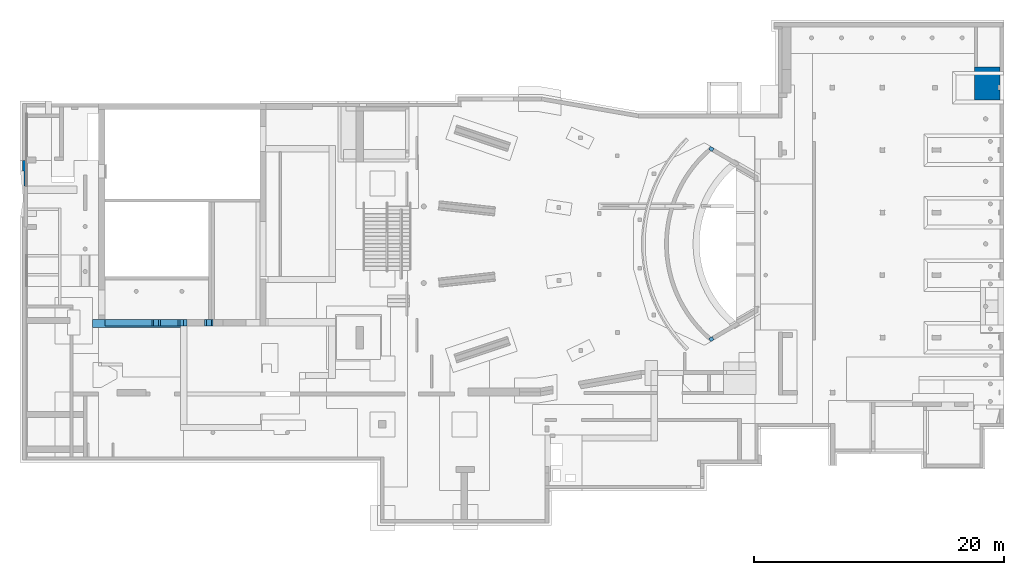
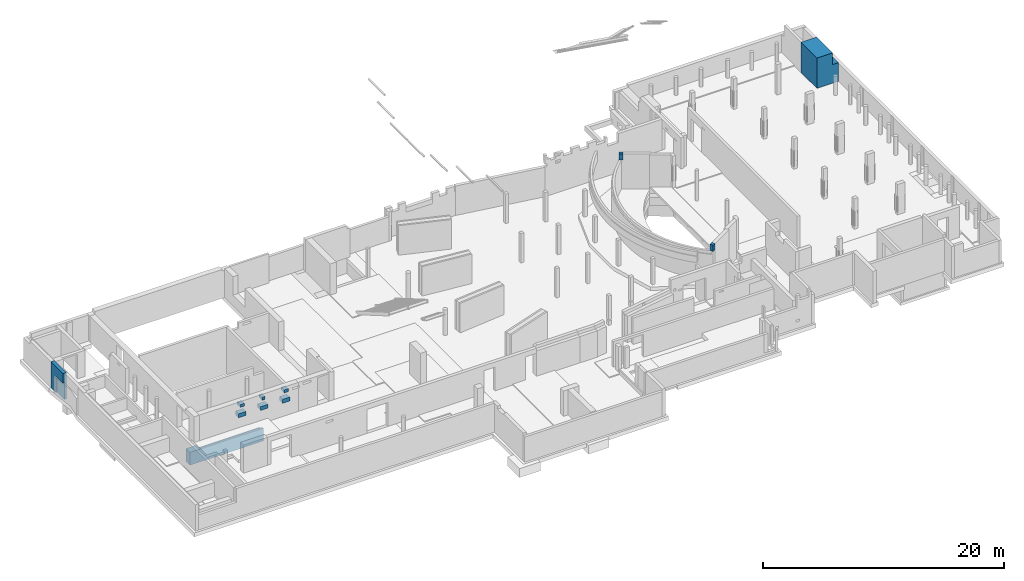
# One storey, part 36 of 42: 11 walls.
"""IFC2X3 building model written with IfcOpenShell, lengths in millimetres."""

from ifc_helpers import new_model, entity, si_unit, converted_unit, derived_unit, direction, frame, frame_2d, origin, place, context, subcontext, project, spatial, rectangle, extrude, faceted_brep, material, layer, layer_set, layer_usage, type_object, element, save


model = new_model("IFC2X3")

# Units and contexts
model_context = context("Model", 3, precision=0.01, world=origin(), true_north=direction((6.12303176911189e-17, 1.0)))
body_context = subcontext(model_context, "Body", "Model", "MODEL_VIEW")
ifc_project = project(units=[si_unit("LENGTHUNIT", "METRE", prefix="MILLI"), si_unit("AREAUNIT", "SQUARE_METRE", prefix="MILLI"), si_unit("VOLUMEUNIT", "CUBIC_METRE"), converted_unit("PLANEANGLEUNIT", "DEGREE", entity("IfcRatioMeasure", 0.0174532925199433), si_unit("PLANEANGLEUNIT", "RADIAN"), dimensions=[0, 0, 0, 0, 0, 0, 0]), si_unit("MASSUNIT", "GRAM", prefix="KILO"), derived_unit("MASSDENSITYUNIT", [(si_unit("MASSUNIT", "GRAM", prefix="KILO"), 1), (si_unit("LENGTHUNIT", "METRE"), -3)]), derived_unit("MOMENTOFINERTIAUNIT", [(si_unit("LENGTHUNIT", "METRE"), 4)]), si_unit("TIMEUNIT", "SECOND"), si_unit("FREQUENCYUNIT", "HERTZ"), si_unit("THERMODYNAMICTEMPERATUREUNIT", "DEGREE_CELSIUS"), derived_unit("THERMALTRANSMITTANCEUNIT", [(si_unit("MASSUNIT", "GRAM", prefix="KILO"), 1), (si_unit("THERMODYNAMICTEMPERATUREUNIT", "KELVIN"), -1), (si_unit("TIMEUNIT", "SECOND"), -3)]), derived_unit("VOLUMETRICFLOWRATEUNIT", [(si_unit("LENGTHUNIT", "METRE"), 3), (si_unit("TIMEUNIT", "SECOND"), -1)]), si_unit("ELECTRICCURRENTUNIT", "AMPERE"), si_unit("ELECTRICVOLTAGEUNIT", "VOLT"), si_unit("POWERUNIT", "WATT"), si_unit("FORCEUNIT", "NEWTON", prefix="KILO"), si_unit("ILLUMINANCEUNIT", "LUX"), si_unit("LUMINOUSFLUXUNIT", "LUMEN"), si_unit("LUMINOUSINTENSITYUNIT", "CANDELA"), derived_unit("USERDEFINED", [(si_unit("MASSUNIT", "GRAM", prefix="KILO"), -1), (si_unit("LENGTHUNIT", "METRE"), -2), (si_unit("TIMEUNIT", "SECOND"), 3), (si_unit("LUMINOUSFLUXUNIT", "LUMEN"), 1)]), derived_unit("LINEARVELOCITYUNIT", [(si_unit("LENGTHUNIT", "METRE"), 1), (si_unit("TIMEUNIT", "SECOND"), -1)]), si_unit("PRESSUREUNIT", "PASCAL"), derived_unit("USERDEFINED", [(si_unit("LENGTHUNIT", "METRE"), -2), (si_unit("MASSUNIT", "GRAM", prefix="KILO"), 1), (si_unit("TIMEUNIT", "SECOND"), -2)]), derived_unit("LINEARFORCEUNIT", [(si_unit("MASSUNIT", "GRAM", prefix="KILO"), 1), (si_unit("LENGTHUNIT", "METRE"), 1), (si_unit("TIMEUNIT", "SECOND"), -2), (si_unit("LENGTHUNIT", "METRE"), -1)]), derived_unit("PLANARFORCEUNIT", [(si_unit("MASSUNIT", "GRAM", prefix="KILO"), 1), (si_unit("LENGTHUNIT", "METRE"), 1), (si_unit("TIMEUNIT", "SECOND"), -2), (si_unit("LENGTHUNIT", "METRE"), -2)])], contexts=[model_context])

# Site, building, storey
site_placement = place(None, origin())
site = spatial("IfcSite", under=ifc_project, at=site_placement, Name="Theater aan de Parade", CompositionType="ELEMENT")
building_placement = place(site_placement, origin())
building = spatial("IfcBuilding", under=site, at=building_placement, Name="Theater aan de Parade", CompositionType="ELEMENT")
storey_placement = place(building_placement, frame((0.0, 0.0, -3300.0)))
storey = spatial("IfcBuildingStorey", under=building, at=storey_placement, Name="-1 kelder", CompositionType="ELEMENT", Elevation=-3300.0)

# Walls
ifc_material_1 = material(Name="00_PBT_MAT_beton t.p.g.")
ifc_layer_1 = layer(ifc_material_1, 300.0)
ifc_layer_set_1 = layer_set([ifc_layer_1], Name="Basic Wall:16_PBT_WA_beton t.p.g._d=300_bestaand")
wall_type_1 = type_object("IfcWallType", Name="Basic Wall:16_PBT_WA_beton t.p.g._d=300_bestaand", PredefinedType="STANDARD", material=ifc_layer_set_1)
wall_1_placement = place(storey_placement, frame((10340.0, 37090.0, -40.0), z_axis=(0.0, 0.0, 1.0), x_axis=(0.0, 1.0, 0.0)))
element("IfcWall", 1, at=wall_1_placement, inside=storey, type_object=wall_type_1, Name="Basic Wall:16_PBT_WA_beton t.p.g._d=300_bestaand", ObjectType="Basic Wall:16_PBT_WA_beton t.p.g._d=300_bestaand", context=body_context, shape_type="Brep", body=[
    faceted_brep([(0.0, -150.0, 0.0), (1565.18277652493, -150.0, 0.0), (2025.18277652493, -150.0, 0.0), (2030.0, -150.0, 0.0), (2030.0, -150.0, 2650.0), (0.0, -150.0, 2650.0), (2030.0, 150.0, 2650.0), (2030.0, 150.0, 0.0), (1185.0, 150.0, 0.0), (1185.0, 150.0, 1690.0), (0.0, 150.0, 1690.0), (0.0, 150.0, 2650.0), (1185.0, 40.0, 1690.0), (1185.0, 40.0, 0.0), (0.0, 40.0, 0.0), (0.0, 40.0, 1690.0), (0.0, 40.0, 2650.0)], [[[0, 1, 2, 3, 4, 5]], [[6, 7, 8, 9, 10, 11]], [[12, 13, 14, 15]], [[13, 12, 9, 8]], [[9, 12, 15, 10]], [[3, 2, 1, 0, 14, 13, 8, 7]], [[4, 3, 7, 6]], [[5, 4, 6, 11, 16]], [[0, 5, 16, 11, 10, 15, 14]]]),
])
ifc_layer_2 = layer(ifc_material_1, 650.0)
ifc_layer_set_2 = layer_set([ifc_layer_2], Name="Basic Wall:16_PBT_WA_beton t.p.g._d=650_bestaand")
wall_type_2 = type_object("IfcWallType", Name="Basic Wall:16_PBT_WA_beton t.p.g._d=650_bestaand", PredefinedType="STANDARD", material=ifc_layer_set_2)
wall_2_placement = place(storey_placement, frame((15775.0, 26085.0, -1747.193114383)))
element("IfcWall", 2, at=wall_2_placement, inside=storey, type_object=wall_type_2, Name="Basic Wall:16_PBT_WA_beton t.p.g._d=650_bestaand", ObjectType="Basic Wall:16_PBT_WA_beton t.p.g._d=650_bestaand", context=body_context, shape_type="Brep", body=[
    faceted_brep([(0.0, -325.0, 0.0), (7050.0, -325.0, 0.0), (7050.0, -325.0, 1307.19311438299), (0.0, -325.0, 1307.19311438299), (7050.0, 325.0, 0.0), (0.0, 325.0, 0.0), (0.0, 325.0, 1007.193114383), (0.0, 325.0, 1307.19311438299), (500.0, 325.0, 1307.19311438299), (1000.0, 325.0, 1307.19311438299), (1000.0, 325.0, 1007.19311438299), (7050.0, 325.0, 1007.19311438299), (7050.0, -175.0, 1307.19311438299), (1000.0, -175.0, 1307.19311438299), (7050.0, 315.0, 1007.19311438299), (7050.0, -175.0, 1007.19311438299), (1000.0, -175.0, 1007.19311438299)], [[[0, 1, 2, 3]], [[4, 5, 6, 7, 8, 9, 10, 11]], [[1, 0, 5, 4]], [[3, 2, 12, 13, 9, 8, 7]], [[0, 3, 7, 6, 5]], [[2, 1, 4, 11, 14, 15, 12]], [[16, 13, 12, 15]], [[10, 16, 15, 14, 11]], [[16, 10, 9, 13]]]),
])
ifc_material_2 = material(Name="00_PBT_MAT_beton t.p.g._C30/37")
ifc_layer_3 = layer(ifc_material_2, 300.0)
ifc_layer_set_3 = layer_set([ifc_layer_3], Name="Basic Wall:28_PBT_WA_beton t.p.g._d=300_C30/37")
ifc_layer_usage_1 = layer_usage(ifc_layer_set_3, "AXIS2", "NEGATIVE", 150.0)
wall_type_3 = type_object("IfcWallType", Name="Basic Wall:28_PBT_WA_beton t.p.g._d=300_C30/37", PredefinedType="STANDARD", material=ifc_layer_set_3)
wall_3_placement = place(storey_placement, frame((65420.1615379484, 39969.2360734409, 3240.0), z_axis=(0.0, 0.0, 1.0), x_axis=(-0.863190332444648, 0.50487864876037, 0.0)))
element("IfcWallStandardCase", 3, at=wall_3_placement, inside=storey, type_object=wall_type_3, material=ifc_layer_usage_1, Name="Basic Wall:28_PBT_WA_beton t.p.g._d=300_C30/37", ObjectType="Basic Wall:28_PBT_WA_beton t.p.g._d=300_C30/37", context=body_context, shape_type="SweptSolid", body=[
    extrude(rectangle(XDim=334.999999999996, YDim=299.999999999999, at=frame_2d((167.500000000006, 1.76214598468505e-12), x_axis=(-1.0, 0.0))), origin(), (0.0, 0.0, 1.0), 640.000000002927),
])
ifc_layer_usage_2 = layer_usage(ifc_layer_set_3, "AXIS2", "POSITIVE", -150.0)
wall_4_placement = place(storey_placement, frame((65420.1615379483, 24930.7639265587, 3240.0), z_axis=(0.0, 0.0, 1.0), x_axis=(-0.863190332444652, -0.504878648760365, 0.0)))
element("IfcWallStandardCase", 4, at=wall_4_placement, inside=storey, type_object=wall_type_3, material=ifc_layer_usage_2, Name="Basic Wall:28_PBT_WA_beton t.p.g._d=300_C30/37", ObjectType="Basic Wall:28_PBT_WA_beton t.p.g._d=300_C30/37", context=body_context, shape_type="SweptSolid", body=[
    extrude(rectangle(XDim=319.653445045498, YDim=300.000000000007, at=frame_2d((159.826722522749, 8.5265128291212e-14), x_axis=(-1.0, 0.0))), origin(), (0.0, 0.0, 1.0), 640.000000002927),
])
ifc_layer_4 = layer(ifc_material_2, 500.0)
ifc_layer_set_4 = layer_set([ifc_layer_4], Name="Basic Wall:28_PBT_WA_beton t.p.g._d=500_C30/37")
ifc_layer_usage_3 = layer_usage(ifc_layer_set_4, "AXIS2", "POSITIVE", -250.0)
wall_type_4 = type_object("IfcWallType", Name="Basic Wall:28_PBT_WA_beton t.p.g._d=500_C30/37", PredefinedType="STANDARD", material=ifc_layer_set_4)
wall_5_placement = place(storey_placement, frame((22785.0, 26160.0, 2290.0)))
element("IfcWallStandardCase", 5, at=wall_5_placement, inside=storey, type_object=wall_type_4, material=ifc_layer_usage_3, Name="Basic Wall:28_PBT_WA_beton t.p.g._d=500_C30/37", ObjectType="Basic Wall:28_PBT_WA_beton t.p.g._d=500_C30/37", context=body_context, shape_type="SweptSolid", body=[
    extrude(rectangle(XDim=289.999999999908, YDim=499.999999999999, at=frame_2d((144.999999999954, 0.0), x_axis=(-1.0, 0.0))), origin(), (0.0, 0.0, 1.0), 300.000000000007),
])
ifc_layer_usage_4 = layer_usage(ifc_layer_set_4, "AXIS2", "POSITIVE", -250.0)
wall_6_placement = place(storey_placement, frame((20685.0, 26160.0, 2290.0)))
element("IfcWallStandardCase", 6, at=wall_6_placement, inside=storey, type_object=wall_type_4, material=ifc_layer_usage_4, Name="Basic Wall:28_PBT_WA_beton t.p.g._d=500_C30/37", ObjectType="Basic Wall:28_PBT_WA_beton t.p.g._d=500_C30/37", context=body_context, shape_type="SweptSolid", body=[
    extrude(rectangle(XDim=400.0, YDim=499.999999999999, at=frame_2d((200.0, 0.0), x_axis=(-1.0, 0.0))), origin(), (0.0, 0.0, 1.0), 300.000000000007),
])
ifc_layer_usage_5 = layer_usage(ifc_layer_set_4, "AXIS2", "POSITIVE", -250.0)
wall_7_placement = place(storey_placement, frame((24885.0, 26160.0, 2290.0)))
element("IfcWallStandardCase", 7, at=wall_7_placement, inside=storey, type_object=wall_type_4, material=ifc_layer_usage_5, Name="Basic Wall:28_PBT_WA_beton t.p.g._d=500_C30/37", ObjectType="Basic Wall:28_PBT_WA_beton t.p.g._d=500_C30/37", context=body_context, shape_type="SweptSolid", body=[
    extrude(rectangle(XDim=400.000000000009, YDim=499.999999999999, at=frame_2d((200.000000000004, 0.0), x_axis=(-1.0, 0.0))), origin(), (0.0, 0.0, 1.0), 300.000000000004),
])
ifc_layer_usage_6 = layer_usage(ifc_layer_set_4, "AXIS2", "POSITIVE", -250.0)
wall_8_placement = place(storey_placement, frame((22635.0, 26160.0, 1300.0)))
element("IfcWallStandardCase", 8, at=wall_8_placement, inside=storey, type_object=wall_type_4, material=ifc_layer_usage_6, Name="Basic Wall:28_PBT_WA_beton t.p.g._d=500_C30/37", ObjectType="Basic Wall:28_PBT_WA_beton t.p.g._d=500_C30/37", context=body_context, shape_type="SweptSolid", body=[
    extrude(rectangle(XDim=700.000000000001, YDim=499.999999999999, at=frame_2d((350.000000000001, 0.0), x_axis=(-1.0, 0.0))), origin(), (0.0, 0.0, 1.0), 400.000000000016),
])
ifc_layer_usage_7 = layer_usage(ifc_layer_set_4, "AXIS2", "POSITIVE", -250.0)
wall_9_placement = place(storey_placement, frame((20535.0, 26160.0, 1300.0)))
element("IfcWallStandardCase", 9, at=wall_9_placement, inside=storey, type_object=wall_type_4, material=ifc_layer_usage_7, Name="Basic Wall:28_PBT_WA_beton t.p.g._d=500_C30/37", ObjectType="Basic Wall:28_PBT_WA_beton t.p.g._d=500_C30/37", context=body_context, shape_type="SweptSolid", body=[
    extrude(rectangle(XDim=700.000000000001, YDim=499.999999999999, at=frame_2d((350.000000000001, 0.0), x_axis=(-1.0, 0.0))), origin(), (0.0, 0.0, 1.0), 400.000000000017),
])
ifc_layer_usage_8 = layer_usage(ifc_layer_set_4, "AXIS2", "POSITIVE", -250.0)
wall_10_placement = place(storey_placement, frame((24735.0, 26160.0, 1300.0)))
element("IfcWallStandardCase", 10, at=wall_10_placement, inside=storey, type_object=wall_type_4, material=ifc_layer_usage_8, Name="Basic Wall:28_PBT_WA_beton t.p.g._d=500_C30/37", ObjectType="Basic Wall:28_PBT_WA_beton t.p.g._d=500_C30/37", context=body_context, shape_type="SweptSolid", body=[
    extrude(rectangle(XDim=699.999999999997, YDim=499.999999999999, at=frame_2d((349.999999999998, 0.0), x_axis=(-1.0, 0.0))), origin(), (0.0, 0.0, 1.0), 400.000000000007),
])
ifc_material_3 = material(Name="00_PBT_MAT_beton t.p.g._C40/50")
ifc_layer_5 = layer(ifc_material_3, 2650.0)
ifc_layer_set_5 = layer_set([ifc_layer_5], Name="Basic Wall:28_PBT_WA_beton t.p.g._d=2650_C40/50")
wall_type_5 = type_object("IfcWallType", Name="Basic Wall:28_PBT_WA_beton t.p.g._d=2650_C40/50", PredefinedType="STANDARD", material=ifc_layer_set_5)
wall_11_placement = place(storey_placement, frame((88360.0, 45286.8723406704, 660.0), z_axis=(0.0, 0.0, 1.0), x_axis=(-1.0, 0.0, 0.0)))
element("IfcWall", 11, at=wall_11_placement, inside=storey, type_object=wall_type_5, Name="Basic Wall:28_PBT_WA_beton t.p.g._d=2650_C40/50", ObjectType="Basic Wall:28_PBT_WA_beton t.p.g._d=2650_C40/50", context=body_context, shape_type="Brep", body=[
    faceted_brep([(0.0, -1325.0, 0.0), (1804.8316824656, -1325.0, 0.0), (2054.83168246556, -1325.0, 0.0), (2054.83168246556, -1325.0, 3070.0), (1804.83168246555, -1325.0, 3070.0), (564.0, -1325.0, 3070.0), (564.0, -1325.0, 2350.0), (564.0, -1325.0, 1900.0), (0.0, -1325.0, 1900.0), (2054.83168246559, 1325.0, 0.0), (0.0, 1325.0, 0.0), (0.0, 1325.0, 1900.0), (564.0, 1325.0, 1900.0), (564.0, 1325.0, 3070.0), (1399.0, 1325.0, 3070.0), (2054.83168246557, 1325.0, 3070.0), (0.0, 151.872340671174, 0.0), (120.0, 151.872340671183, 0.0), (120.0, 501.87234067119, 0.0), (0.0, 501.872340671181, 0.0), (2054.83168246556, -481.351155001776, 3070.0), (0.0, 501.872340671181, 1840.0), (0.0, 151.872340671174, 1840.0), (120.0, 501.87234067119, 1840.0), (120.0, 151.872340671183, 1840.0)], [[[0, 1, 2, 3, 4, 5, 6, 7, 8]], [[9, 10, 11, 12, 13, 14, 15]], [[2, 1, 0, 16, 17, 18, 19, 10, 9]], [[3, 2, 9, 15, 20]], [[0, 8, 11, 10, 19, 21, 22, 16]], [[5, 13, 12, 7, 6]], [[8, 7, 12, 11]], [[3, 20, 15, 14, 13, 5, 4]], [[23, 24, 22, 21]], [[24, 23, 18, 17]], [[24, 17, 16, 22]], [[18, 23, 21, 19]]]),
])

save(model, "model.ifc")
